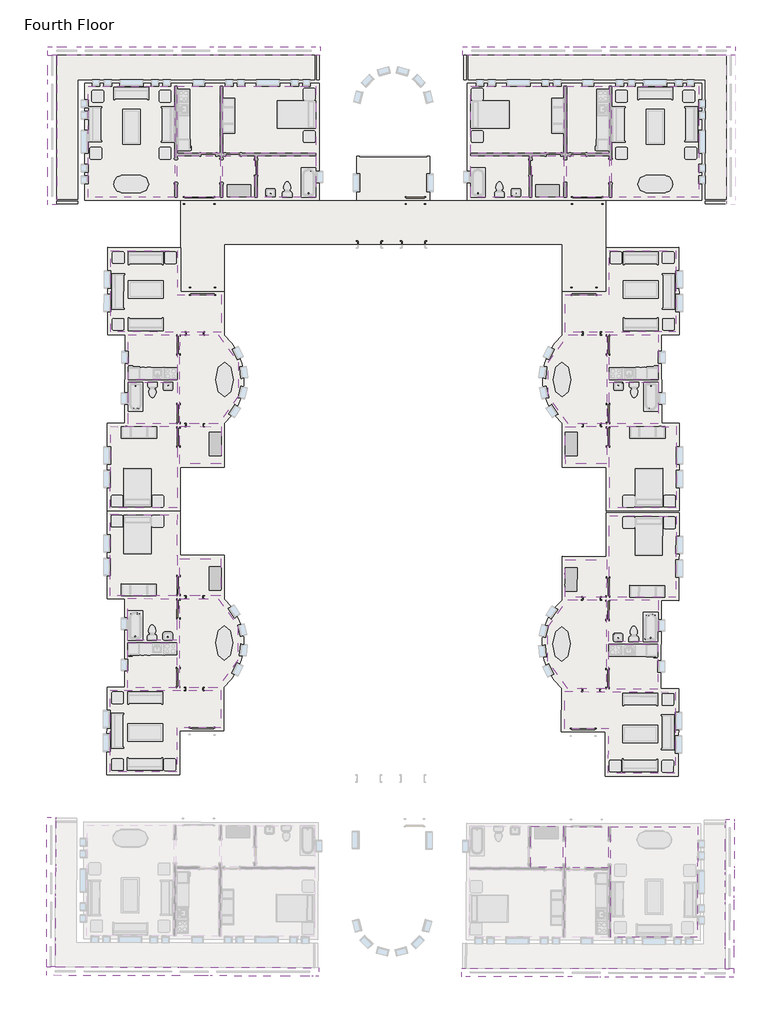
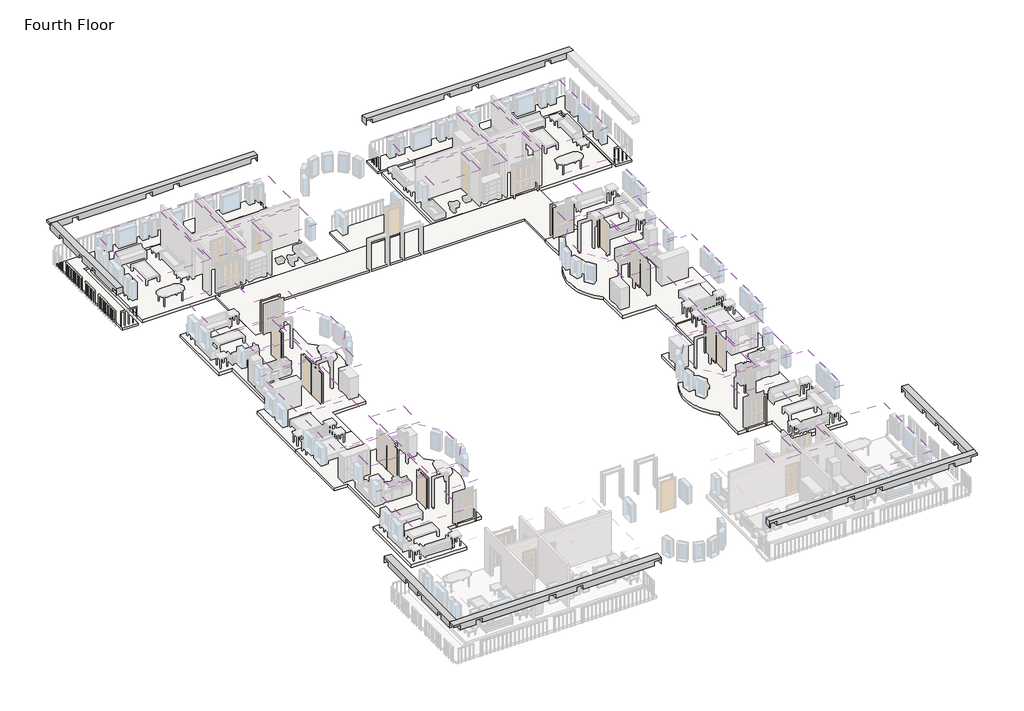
# One storey, part 3 of 8: 39 coverings, 10 slabs, 7 beams.
"""IFC4 building model written with IfcOpenShell, lengths in millimetres."""

from ifc_helpers import new_model, si_unit, point, frame, frame_2d, origin, place, context, project, spatial, polyline, circle_curve, trimmed, segment, composite_curve, outline, extrude, faceted_brep, element, save

model = new_model("IFC4")

# Units and contexts
model_context = context("Model", 3, world=origin())
ifc_project = project(units=[si_unit("LENGTHUNIT", "METRE", prefix="MILLI")], contexts=[model_context])

# Site, building, storey
site = spatial("IfcSite", under=ifc_project)
building = spatial("IfcBuilding", under=site)
storey = spatial("IfcBuildingStorey", under=building, Name="Fourth Floor", Elevation=9144.0)

# Beams
placement = place(None, origin())
element("IfcBeam", 1, ObjectType="M_Concrete-Rectangular Beam : 450 x 450", at=placement, inside=storey, context=model_context, shape_type="Brep", body=[
    faceted_brep([(-15338.3416203, 4481.1188386, 12192.0), (-15338.3416203, 4481.1188386, 11742.0), (-15338.3416203, 4031.1188386, 11742.0), (-15338.3416203, 4031.1188386, 12192.0), (-1643.3416203, 4031.1188386, 12192.0), (-1193.3416203, 4031.1188386, 12192.0), (-1193.3416203, 4481.1188386, 12192.0), (-15335.3416203, 4031.1188386, 11742.0), (-15335.3416203, 4031.1188386, 12042.0), (-14885.3416203, 4031.1188386, 12042.0), (-14885.3416203, 4031.1188386, 11742.0), (-10043.3416203, 4031.1188386, 11742.0), (-10043.3416203, 4031.1188386, 12042.0), (-9593.3416203, 4031.1188386, 12042.0), (-9593.3416203, 4031.1188386, 11742.0), (-8143.3416203, 4031.1188386, 11742.0), (-8143.3416203, 4031.1188386, 12042.0), (-7693.3416203, 4031.1188386, 12042.0), (-7693.3416203, 4031.1188386, 11742.0), (-3143.3416203, 4031.1188386, 11742.0), (-3143.3416203, 4031.1188386, 12042.0), (-2693.3416203, 4031.1188386, 12042.0), (-2693.3416203, 4031.1188386, 11742.0), (-1643.3416203, 4031.1188386, 11742.0), (-1643.3416203, 4031.1188386, 12042.0), (-1193.3416203, 4031.1188386, 12042.0), (-2693.3416203, 4481.1188386, 11742.0), (-1643.3416203, 4481.1188386, 11742.0), (-1193.3416203, 4481.1188386, 12042.0), (-1643.3416203, 4481.1188386, 12042.0), (-2693.3416203, 4481.1188386, 12042.0), (-3143.3416203, 4481.1188386, 12042.0), (-3143.3416203, 4481.1188386, 11742.0), (-7693.3416203, 4481.1188386, 11742.0), (-7693.3416203, 4481.1188386, 12042.0), (-8143.3416203, 4481.1188386, 12042.0), (-8143.3416203, 4481.1188386, 11742.0), (-9593.3416203, 4481.1188386, 11742.0), (-9593.3416203, 4481.1188386, 12042.0), (-10043.3416203, 4481.1188386, 12042.0), (-10043.3416203, 4481.1188386, 11742.0), (-14885.3416203, 4481.1188386, 11742.0), (-14885.3416203, 4481.1188386, 12042.0), (-15335.3416203, 4481.1188386, 12042.0), (-15335.3416203, 4481.1188386, 11742.0)], [[[0, 1, 2, 3]], [[0, 3, 4, 5, 6]], [[3, 2, 7, 8, 9, 10, 11, 12, 13, 14, 15, 16, 17, 18, 19, 20, 21, 22, 23, 24, 25, 5, 4]], [[22, 26, 27, 23]], [[1, 0, 6, 28, 29, 27, 26, 30, 31, 32, 33, 34, 35, 36, 37, 38, 39, 40, 41, 42, 43, 44]], [[6, 5, 25, 28]], [[21, 30, 26, 22]], [[31, 20, 19, 32]], [[30, 21, 20, 31]], [[32, 19, 18, 33]], [[17, 34, 33, 18]], [[35, 16, 15, 36]], [[34, 17, 16, 35]], [[36, 15, 14, 37]], [[13, 38, 37, 14]], [[39, 12, 11, 40]], [[38, 13, 12, 39]], [[40, 11, 10, 41]], [[9, 42, 41, 10]], [[42, 9, 8, 43]], [[29, 24, 23, 27]], [[24, 29, 28, 25]], [[43, 8, 7, 44]], [[2, 1, 44, 7]]]),
])
element("IfcBeam", 2, ObjectType="M_Concrete-Rectangular Beam : 450 x 450", at=placement, inside=storey, context=model_context, shape_type="Brep", body=[
    faceted_brep([(-22763.8416203, 4481.1188386, 11742.0), (-22763.8416203, 4481.1188386, 12192.0), (-22763.8416203, 4031.1188386, 12192.0), (-22763.8416203, 4031.1188386, 11742.0), (-36908.8416203, 4481.1188386, 12192.0), (-36908.8416203, 4031.1188386, 12192.0), (-36458.8416203, 4031.1188386, 12192.0), (-36908.8416203, 4031.1188386, 12042.0), (-36458.8416203, 4031.1188386, 12042.0), (-36458.8416203, 4031.1188386, 11742.0), (-35408.8416203, 4031.1188386, 11742.0), (-35408.8416203, 4031.1188386, 12042.0), (-34958.8416203, 4031.1188386, 12042.0), (-34958.8416203, 4031.1188386, 11742.0), (-30408.8416203, 4031.1188386, 11742.0), (-30408.8416203, 4031.1188386, 12042.0), (-29958.8416203, 4031.1188386, 12042.0), (-29958.8416203, 4031.1188386, 11742.0), (-28508.8416203, 4031.1188386, 11742.0), (-28508.8416203, 4031.1188386, 12042.0), (-28058.8416203, 4031.1188386, 12042.0), (-28058.8416203, 4031.1188386, 11742.0), (-23216.8416203, 4031.1188386, 11742.0), (-23216.8416203, 4031.1188386, 12042.0), (-22766.8416203, 4031.1188386, 12042.0), (-22766.8416203, 4031.1188386, 11742.0), (-35408.8416203, 4481.1188386, 11742.0), (-36458.8416203, 4481.1188386, 11742.0), (-22766.8416203, 4481.1188386, 11742.0), (-22766.8416203, 4481.1188386, 12042.0), (-23216.8416203, 4481.1188386, 12042.0), (-23216.8416203, 4481.1188386, 11742.0), (-28058.8416203, 4481.1188386, 11742.0), (-28058.8416203, 4481.1188386, 12042.0), (-28508.8416203, 4481.1188386, 12042.0), (-28508.8416203, 4481.1188386, 11742.0), (-29958.8416203, 4481.1188386, 11742.0), (-29958.8416203, 4481.1188386, 12042.0), (-30408.8416203, 4481.1188386, 12042.0), (-30408.8416203, 4481.1188386, 11742.0), (-34958.8416203, 4481.1188386, 11742.0), (-34958.8416203, 4481.1188386, 12042.0), (-35408.8416203, 4481.1188386, 12042.0), (-36458.8416203, 4481.1188386, 12042.0), (-36908.8416203, 4481.1188386, 12042.0)], [[[0, 1, 2, 3]], [[2, 1, 4, 5, 6]], [[3, 2, 6, 5, 7, 8, 9, 10, 11, 12, 13, 14, 15, 16, 17, 18, 19, 20, 21, 22, 23, 24, 25]], [[26, 10, 9, 27]], [[1, 0, 28, 29, 30, 31, 32, 33, 34, 35, 36, 37, 38, 39, 40, 41, 42, 26, 27, 43, 44, 4]], [[42, 11, 10, 26]], [[12, 41, 40, 13]], [[11, 42, 41, 12]], [[13, 40, 39, 14]], [[38, 15, 14, 39]], [[16, 37, 36, 17]], [[15, 38, 37, 16]], [[17, 36, 35, 18]], [[34, 19, 18, 35]], [[20, 33, 32, 21]], [[19, 34, 33, 20]], [[21, 32, 31, 22]], [[30, 23, 22, 31]], [[23, 30, 29, 24]], [[8, 43, 27, 9]], [[43, 8, 7, 44]], [[24, 29, 28, 25]], [[0, 3, 25, 28]], [[5, 4, 44, 7]]]),
])
element("IfcBeam", 3, ObjectType="M_Concrete-Rectangular Beam : 450 x 450", at=placement, inside=storey, context=model_context, shape_type="Brep", body=[
    faceted_brep([(-36458.8416203, -3743.8811614, 12192.0), (-36908.8416203, -3743.8811614, 12192.0), (-36908.8416203, -3743.8811614, 11742.0), (-36458.8416203, -3743.8811614, 11742.0), (-36458.8416203, 4031.1188386, 12192.0), (-36908.8416203, 4031.1188386, 12192.0), (-36458.8416203, -3739.8811614, 11742.0), (-36458.8416203, -3739.8811614, 12042.0), (-36458.8416203, -3289.8811614, 12042.0), (-36458.8416203, -3289.8811614, 11742.0), (-36458.8416203, -1295.3811614, 11742.0), (-36458.8416203, -1295.3811614, 12042.0), (-36458.8416203, -845.3811614, 12042.0), (-36458.8416203, -845.3811614, 11742.0), (-36458.8416203, 231.1188386, 11742.0), (-36458.8416203, 231.1188386, 12042.0), (-36458.8416203, 681.1188386, 12042.0), (-36458.8416203, 681.1188386, 11742.0), (-36458.8416203, 2531.1188386, 11742.0), (-36458.8416203, 2531.1188386, 12042.0), (-36458.8416203, 2981.1188386, 12042.0), (-36458.8416203, 2981.1188386, 11742.0), (-36458.8416203, 4031.1188386, 11742.0), (-36458.8416203, 4031.1188386, 12042.0), (-36908.8416203, -3739.8811614, 11742.0), (-36908.8416203, 4031.1188386, 12042.0), (-36908.8416203, 4031.1188386, 11742.0), (-36908.8416203, 2981.1188386, 11742.0), (-36908.8416203, 2981.1188386, 12042.0), (-36908.8416203, 2531.1188386, 12042.0), (-36908.8416203, 2531.1188386, 11742.0), (-36908.8416203, 681.1188386, 11742.0), (-36908.8416203, 681.1188386, 12042.0), (-36908.8416203, 231.1188386, 12042.0), (-36908.8416203, 231.1188386, 11742.0), (-36908.8416203, -845.3811614, 11742.0), (-36908.8416203, -845.3811614, 12042.0), (-36908.8416203, -1295.3811614, 12042.0), (-36908.8416203, -1295.3811614, 11742.0), (-36908.8416203, -3289.8811614, 11742.0), (-36908.8416203, -3289.8811614, 12042.0), (-36908.8416203, -3739.8811614, 12042.0)], [[[0, 1, 2, 3]], [[1, 0, 4, 5]], [[0, 3, 6, 7, 8, 9, 10, 11, 12, 13, 14, 15, 16, 17, 18, 19, 20, 21, 22, 23, 4]], [[3, 2, 24, 6]], [[2, 1, 5, 25, 26, 27, 28, 29, 30, 31, 32, 33, 34, 35, 36, 37, 38, 39, 40, 41, 24]], [[5, 4, 23, 22, 26, 25]], [[29, 19, 18, 30]], [[20, 28, 27, 21]], [[19, 29, 28, 20]], [[26, 22, 21, 27]], [[33, 15, 14, 34]], [[16, 32, 31, 17]], [[15, 33, 32, 16]], [[30, 18, 17, 31]], [[37, 11, 10, 38]], [[12, 36, 35, 13]], [[11, 37, 36, 12]], [[34, 14, 13, 35]], [[8, 40, 39, 9]], [[7, 41, 40, 8]], [[41, 7, 6, 24]], [[38, 10, 9, 39]]]),
])
element("IfcBeam", 4, ObjectType="M_Concrete-Rectangular Beam : 450 x 450", at=placement, inside=storey, context=model_context, shape_type="Brep", body=[
    faceted_brep([(-15408.3142615, -43861.5586759, 11742.0), (-15408.3142615, -43861.5586759, 12192.0), (-15407.0115773, -43411.5605615, 12192.0), (-15407.0115773, -43411.5605615, 11742.0), (-1263.3735305, -43902.5063845, 12192.0), (-1262.0708462, -43452.5082701, 12192.0), (-1712.0689607, -43451.2055858, 12192.0), (-1262.0708462, -43452.5082701, 12042.0), (-1712.0689607, -43451.2055858, 12042.0), (-1712.0689607, -43451.2055858, 11742.0), (-2762.0645611, -43448.1659892, 11742.0), (-2762.0645611, -43448.1659892, 12042.0), (-3212.0626755, -43446.863305, 12042.0), (-3212.0626755, -43446.863305, 11742.0), (-7762.0436106, -43433.6917196, 11742.0), (-7762.0436106, -43433.6917196, 12042.0), (-8212.041725, -43432.3890354, 12042.0), (-8212.041725, -43432.3890354, 11742.0), (-9662.0356494, -43428.1914972, 11742.0), (-9662.0356494, -43428.1914972, 12042.0), (-10112.0337638, -43426.888813, 12042.0), (-10112.0337638, -43426.888813, 11742.0), (-14954.0134754, -43412.8719303, 11742.0), (-14954.0134754, -43412.8719303, 12042.0), (-15404.0115898, -43411.569246, 12042.0), (-15404.0115898, -43411.569246, 11742.0), (-2763.3672453, -43898.1641037, 11742.0), (-1713.3716449, -43901.2037003, 11742.0), (-15405.3142741, -43861.5673605, 11742.0), (-15405.3142741, -43861.5673605, 12042.0), (-14955.3161596, -43862.8700448, 12042.0), (-14955.3161597, -43862.8700448, 11742.0), (-10113.3364481, -43876.8869274, 11742.0), (-10113.3364481, -43876.8869274, 12042.0), (-9663.3383336, -43878.1896117, 12042.0), (-9663.3383337, -43878.1896117, 11742.0), (-8213.3444093, -43882.3871498, 11742.0), (-8213.3444093, -43882.3871498, 12042.0), (-7763.3462948, -43883.6898341, 12042.0), (-7763.3462948, -43883.6898341, 11742.0), (-3213.3653598, -43896.8614194, 11742.0), (-3213.3653598, -43896.8614194, 12042.0), (-2763.3672453, -43898.1641037, 12042.0), (-1713.3716449, -43901.2037003, 12042.0), (-1263.3735305, -43902.5063845, 12042.0)], [[[0, 1, 2, 3]], [[2, 1, 4, 5, 6]], [[3, 2, 6, 5, 7, 8, 9, 10, 11, 12, 13, 14, 15, 16, 17, 18, 19, 20, 21, 22, 23, 24, 25]], [[26, 10, 9, 27]], [[1, 0, 28, 29, 30, 31, 32, 33, 34, 35, 36, 37, 38, 39, 40, 41, 42, 26, 27, 43, 44, 4]], [[42, 11, 10, 26]], [[12, 41, 40, 13]], [[11, 42, 41, 12]], [[13, 40, 39, 14]], [[38, 15, 14, 39]], [[16, 37, 36, 17]], [[15, 38, 37, 16]], [[17, 36, 35, 18]], [[34, 19, 18, 35]], [[20, 33, 32, 21]], [[19, 34, 33, 20]], [[21, 32, 31, 22]], [[30, 23, 22, 31]], [[23, 30, 29, 24]], [[8, 43, 27, 9]], [[43, 8, 7, 44]], [[24, 29, 28, 25]], [[0, 3, 25, 28]], [[5, 4, 44, 7]]]),
])
element("IfcBeam", 5, ObjectType="M_Concrete-Rectangular Beam : 450 x 450", at=placement, inside=storey, context=model_context, shape_type="Brep", body=[
    faceted_brep([(-1689.5614715, -35676.2381638, 12192.0), (-1239.563357, -35677.5408481, 12192.0), (-1239.563357, -35677.5408481, 11742.0), (-1689.5614715, -35676.2381638, 11742.0), (-1712.0689607, -43451.2055858, 12192.0), (-1262.0708462, -43452.5082701, 12192.0), (-1689.5730509, -35680.2381471, 11742.0), (-1689.5730509, -35680.2381471, 12042.0), (-1690.8757352, -36130.2362615, 12042.0), (-1690.8757352, -36130.2362615, 11742.0), (-1696.6495213, -38124.7279044, 11742.0), (-1696.6495213, -38124.7279044, 12042.0), (-1697.9522056, -38574.7260188, 12042.0), (-1697.9522056, -38574.7260188, 11742.0), (-1701.0685158, -39651.2215082, 11742.0), (-1701.0685158, -39651.2215082, 12042.0), (-1702.3712001, -40101.2196227, 12042.0), (-1702.3712001, -40101.2196227, 11742.0), (-1707.7266798, -41951.211871, 11742.0), (-1707.7266798, -41951.211871, 12042.0), (-1709.0293641, -42401.2099854, 12042.0), (-1709.0293641, -42401.2099854, 11742.0), (-1712.0689607, -43451.2055858, 11742.0), (-1712.0689607, -43451.2055858, 12042.0), (-1239.5749364, -35681.5408313, 11742.0), (-1262.0708462, -43452.5082701, 12042.0), (-1262.0708462, -43452.5082701, 11742.0), (-1259.0312496, -42402.5126697, 11742.0), (-1259.0312496, -42402.5126697, 12042.0), (-1257.7285653, -41952.5145552, 12042.0), (-1257.7285653, -41952.5145552, 11742.0), (-1252.3730856, -40102.5223069, 11742.0), (-1252.3730856, -40102.5223069, 12042.0), (-1251.0704013, -39652.5241925, 12042.0), (-1251.0704013, -39652.5241925, 11742.0), (-1247.9540911, -38576.0287031, 11742.0), (-1247.9540911, -38576.0287031, 12042.0), (-1246.6514068, -38126.0305886, 12042.0), (-1246.6514068, -38126.0305886, 11742.0), (-1240.8776207, -36131.5389458, 11742.0), (-1240.8776207, -36131.5389458, 12042.0), (-1239.5749364, -35681.5408313, 12042.0)], [[[0, 1, 2, 3]], [[1, 0, 4, 5]], [[0, 3, 6, 7, 8, 9, 10, 11, 12, 13, 14, 15, 16, 17, 18, 19, 20, 21, 22, 23, 4]], [[3, 2, 24, 6]], [[2, 1, 5, 25, 26, 27, 28, 29, 30, 31, 32, 33, 34, 35, 36, 37, 38, 39, 40, 41, 24]], [[5, 4, 23, 22, 26, 25]], [[29, 19, 18, 30]], [[20, 28, 27, 21]], [[19, 29, 28, 20]], [[26, 22, 21, 27]], [[33, 15, 14, 34]], [[16, 32, 31, 17]], [[15, 33, 32, 16]], [[30, 18, 17, 31]], [[37, 11, 10, 38]], [[12, 36, 35, 13]], [[11, 37, 36, 12]], [[34, 14, 13, 35]], [[8, 40, 39, 9]], [[7, 41, 40, 8]], [[41, 7, 6, 24]], [[38, 10, 9, 39]]]),
])
element("IfcBeam", 6, ObjectType="M_Concrete-Rectangular Beam : 450 x 450", at=placement, inside=storey, context=model_context, shape_type="Brep", body=[
    faceted_brep([(-22833.783148, -43840.0629382, 12192.0), (-22833.783148, -43840.0629382, 11742.0), (-22832.4804637, -43390.0648237, 11742.0), (-22832.4804637, -43390.0648237, 12192.0), (-36527.4230803, -43350.4197994, 12192.0), (-36977.4211948, -43349.1171151, 12192.0), (-36978.723879, -43799.1152296, 12192.0), (-22835.4804511, -43390.0561392, 11742.0), (-22835.4804511, -43390.0561392, 12042.0), (-23285.4785656, -43388.7534549, 12042.0), (-23285.4785656, -43388.7534549, 11742.0), (-28127.4582771, -43374.7365723, 11742.0), (-28127.4582771, -43374.7365723, 12042.0), (-28577.4563916, -43373.433888, 12042.0), (-28577.4563916, -43373.433888, 11742.0), (-30027.4503159, -43369.2363498, 11742.0), (-30027.4503159, -43369.2363498, 12042.0), (-30477.4484304, -43367.9336656, 12042.0), (-30477.4484304, -43367.9336656, 11742.0), (-35027.4293654, -43354.7620803, 11742.0), (-35027.4293655, -43354.7620803, 12042.0), (-35477.4274799, -43353.459396, 12042.0), (-35477.4274799, -43353.459396, 11742.0), (-36527.4230803, -43350.4197994, 11742.0), (-36527.4230803, -43350.4197994, 12042.0), (-36977.4211948, -43349.1171151, 12042.0), (-35478.7301642, -43803.4575104, 11742.0), (-36528.7257646, -43800.4179138, 11742.0), (-36978.723879, -43799.1152296, 12042.0), (-36528.7257646, -43800.4179138, 12042.0), (-35478.7301642, -43803.4575104, 12042.0), (-35028.7320497, -43804.7601947, 12042.0), (-35028.7320497, -43804.7601947, 11742.0), (-30478.7511147, -43817.93178, 11742.0), (-30478.7511147, -43817.93178, 12042.0), (-30028.7530002, -43819.2344643, 12042.0), (-30028.7530002, -43819.2344643, 11742.0), (-28578.7590758, -43823.4320025, 11742.0), (-28578.7590758, -43823.4320025, 12042.0), (-28128.7609614, -43824.7346867, 12042.0), (-28128.7609614, -43824.7346867, 11742.0), (-23286.7812498, -43838.7515694, 11742.0), (-23286.7812498, -43838.7515694, 12042.0), (-22836.7831354, -43840.0542536, 12042.0), (-22836.7831354, -43840.0542536, 11742.0)], [[[0, 1, 2, 3]], [[0, 3, 4, 5, 6]], [[3, 2, 7, 8, 9, 10, 11, 12, 13, 14, 15, 16, 17, 18, 19, 20, 21, 22, 23, 24, 25, 5, 4]], [[22, 26, 27, 23]], [[1, 0, 6, 28, 29, 27, 26, 30, 31, 32, 33, 34, 35, 36, 37, 38, 39, 40, 41, 42, 43, 44]], [[21, 30, 26, 22]], [[31, 20, 19, 32]], [[30, 21, 20, 31]], [[32, 19, 18, 33]], [[17, 34, 33, 18]], [[35, 16, 15, 36]], [[34, 17, 16, 35]], [[36, 15, 14, 37]], [[13, 38, 37, 14]], [[39, 12, 11, 40]], [[38, 13, 12, 39]], [[40, 11, 10, 41]], [[9, 42, 41, 10]], [[42, 9, 8, 43]], [[29, 24, 23, 27]], [[24, 29, 28, 25]], [[43, 8, 7, 44]], [[2, 1, 44, 7]], [[6, 5, 25, 28]]]),
])
element("IfcBeam", 7, ObjectType="M_Concrete-Rectangular Beam : 450 x 450", at=placement, inside=storey, context=model_context, shape_type="Brep", body=[
    faceted_brep([(-36954.9137056, -35574.1496931, 12192.0), (-36504.9155911, -35575.4523774, 12192.0), (-36504.9155911, -35575.4523774, 11742.0), (-36954.9137056, -35574.1496931, 11742.0), (-36977.4211948, -43349.1171151, 12192.0), (-36527.4230803, -43350.4197994, 12192.0), (-36527.4230803, -43350.4197994, 12042.0), (-36527.4230803, -43350.4197994, 11742.0), (-36524.3834837, -42300.424199, 11742.0), (-36524.3834837, -42300.424199, 12042.0), (-36523.0807994, -41850.4260845, 12042.0), (-36523.0807994, -41850.4260845, 11742.0), (-36517.7253197, -40000.4338362, 11742.0), (-36517.7253197, -40000.4338362, 12042.0), (-36516.4226354, -39550.4357218, 12042.0), (-36516.4226354, -39550.4357218, 11742.0), (-36513.3063252, -38473.9402324, 11742.0), (-36513.3063252, -38473.9402324, 12042.0), (-36512.0036409, -38023.9421179, 12042.0), (-36512.0036409, -38023.9421179, 11742.0), (-36506.2298548, -36029.4504751, 11742.0), (-36506.2298548, -36029.4504751, 12042.0), (-36504.9271705, -35579.4523606, 12042.0), (-36504.9271705, -35579.4523606, 11742.0), (-36954.925285, -35578.1496764, 11742.0), (-36954.925285, -35578.1496764, 12042.0), (-36956.2279692, -36028.1477908, 12042.0), (-36956.2279692, -36028.1477908, 11742.0), (-36962.0017554, -38022.6394337, 11742.0), (-36962.0017554, -38022.6394337, 12042.0), (-36963.3044396, -38472.6375481, 12042.0), (-36963.3044396, -38472.6375481, 11742.0), (-36966.4207499, -39549.1330375, 11742.0), (-36966.4207499, -39549.1330375, 12042.0), (-36967.7234341, -39999.1311519, 12042.0), (-36967.7234341, -39999.1311519, 11742.0), (-36973.0789139, -41849.1234003, 11742.0), (-36973.0789139, -41849.1234003, 12042.0), (-36974.3815981, -42299.1215147, 12042.0), (-36974.3815981, -42299.1215147, 11742.0), (-36977.4211948, -43349.1171151, 11742.0), (-36977.4211948, -43349.1171151, 12042.0)], [[[0, 1, 2, 3]], [[1, 0, 4, 5]], [[2, 1, 5, 6, 7, 8, 9, 10, 11, 12, 13, 14, 15, 16, 17, 18, 19, 20, 21, 22, 23]], [[3, 2, 23, 24]], [[0, 3, 24, 25, 26, 27, 28, 29, 30, 31, 32, 33, 34, 35, 36, 37, 38, 39, 40, 41, 4]], [[5, 4, 41, 40, 7, 6]], [[10, 37, 36, 11]], [[38, 9, 8, 39]], [[37, 10, 9, 38]], [[7, 40, 39, 8]], [[14, 33, 32, 15]], [[34, 13, 12, 35]], [[33, 14, 13, 34]], [[11, 36, 35, 12]], [[18, 29, 28, 19]], [[30, 17, 16, 31]], [[29, 18, 17, 30]], [[15, 32, 31, 16]], [[26, 21, 20, 27]], [[25, 22, 21, 26]], [[22, 25, 24, 23]], [[19, 28, 27, 20]]]),
])

# Coverings
element("IfcCovering", 8, ObjectType="Plain", at=placement, inside=storey, context=model_context, shape_type="SweptSolid", body=[
    extrude(outline(polyline([(-14935.3416203, 2406.1188386), (-10086.8416203, 2406.1188386), (-10086.8416203, -1070.3811614), (-14935.3416203, -1070.3811614), (-14935.3416203, 2406.1188386)])), frame((0.0, 0.0, 11734.0), z_axis=(0.0, 0.0, 1.0), x_axis=(1.0, 0.0, 0.0)), (0.0, 0.0, 1.0), 57.0),
])
element("IfcCovering", 9, ObjectType="Plain", at=placement, inside=storey, context=model_context, shape_type="SweptSolid", body=[
    extrude(outline(polyline([(-9951.3416203, -1070.3811614), (-9951.3416203, 2406.1188386), (-7733.0916203, 2406.1188386), (-7733.0916203, -1070.3811614), (-9951.3416203, -1070.3811614)])), frame((0.0, 0.0, 11734.0), z_axis=(0.0, 0.0, 1.0), x_axis=(1.0, 0.0, 0.0)), (0.0, 0.0, 1.0), 57.0),
])
element("IfcCovering", 10, ObjectType="Plain", at=placement, inside=storey, context=model_context, shape_type="SweptSolid", body=[
    extrude(outline(polyline([(-7597.5916203, -3339.8811614), (-7597.5916203, 2406.1188386), (-3093.3416203, 2406.1188386), (-3093.3416203, -3339.8811614), (-7597.5916203, -3339.8811614)])), frame((0.0, 0.0, 11734.0), z_axis=(0.0, 0.0, 1.0), x_axis=(1.0, 0.0, 0.0)), (0.0, 0.0, 1.0), 57.0),
])
element("IfcCovering", 11, ObjectType="Plain", at=placement, inside=storey, context=model_context, shape_type="SweptSolid", body=[
    extrude(outline(polyline([(-7733.0916203, -3339.8811614), (-9951.3416203, -3339.8811614), (-9951.3416203, -1205.8811614), (-7733.0916203, -1205.8811614), (-7733.0916203, -3339.8811614)])), frame((0.0, 0.0, 11734.0), z_axis=(0.0, 0.0, 1.0), x_axis=(1.0, 0.0, 0.0)), (0.0, 0.0, 1.0), 57.0),
])
element("IfcCovering", 12, ObjectType="Plain", at=placement, inside=storey, context=model_context, shape_type="SweptSolid", body=[
    extrude(outline(polyline([(-11887.3416203, -1205.8811614), (-11887.3416203, -3339.8811614), (-14935.3416203, -3339.8811614), (-14935.3416203, -1205.8811614), (-11887.3416203, -1205.8811614)])), frame((0.0, 0.0, 11734.0), z_axis=(0.0, 0.0, 1.0), x_axis=(1.0, 0.0, 0.0)), (0.0, 0.0, 1.0), 57.0),
])
element("IfcCovering", 13, ObjectType="Plain", at=placement, inside=storey, context=model_context, shape_type="SweptSolid", body=[
    extrude(outline(polyline([(-10086.8416203, -3339.8811614), (-11751.8416203, -3339.8811614), (-11751.8416203, -1205.8811614), (-10086.8416203, -1205.8811614), (-10086.8416203, -3339.8811614)])), frame((0.0, 0.0, 11734.0), z_axis=(0.0, 0.0, 1.0), x_axis=(1.0, 0.0, 0.0)), (0.0, 0.0, 1.0), 57.0),
])
element("IfcCovering", 14, ObjectType="Plain", at=placement, inside=storey, context=model_context, shape_type="SweptSolid", body=[
    extrude(outline(polyline([(-7719.603401, -17382.7647995), (-7726.8533934, -17382.7752934), (-7729.9194088, -15264.5275123), (-5002.0722663, -15260.5791445), (-5002.0617724, -15267.829137), (-4262.662547, -15266.7589083), (-4256.5515039, -19488.7544857), (-7716.5478795, -19493.7625882), (-7719.603401, -17382.7647995)])), frame((0.0, 0.0, 11735.0), z_axis=(0.0, 0.0, 1.0), x_axis=(1.0, 0.0, 0.0)), (0.0, 0.0, 1.0), 57.0),
])
element("IfcCovering", 15, ObjectType="Plain", at=placement, inside=storey, context=model_context, shape_type="SweptSolid", body=[
    extrude(outline(polyline([(-7730.1155353, -15129.0276542), (-7733.2504483, -12963.179923), (-5180.4031225, -12959.4848553), (-5177.2682095, -15125.3325865), (-7730.1155353, -15129.0276542)])), frame((0.0, 0.0, 11735.0), z_axis=(0.0, 0.0, 1.0), x_axis=(1.0, 0.0, 0.0)), (0.0, 0.0, 1.0), 57.0),
])
element("IfcCovering", 16, ObjectType="Plain", at=placement, inside=storey, context=model_context, shape_type="SweptSolid", body=[
    extrude(outline(polyline([(-7733.4465749, -12827.680065), (-7736.8265375, -10492.5325111), (-5183.9792116, -10488.8374433), (-5180.599249, -12823.9849972), (-7733.4465749, -12827.680065)])), frame((0.0, 0.0, 11735.0), z_axis=(0.0, 0.0, 1.0), x_axis=(1.0, 0.0, 0.0)), (0.0, 0.0, 1.0), 57.0),
])
element("IfcCovering", 17, ObjectType="Plain", at=placement, inside=storey, context=model_context, shape_type="SweptSolid", body=[
    extrude(outline(polyline([(-10015.770277, -10360.3309807), (-10018.5829924, -8417.0830163), (-7732.585387, -8413.7741948), (-7735.8942085, -6127.7765894), (-4275.8978329, -6122.7684869), (-4269.7867899, -10344.7640643), (-5009.1860154, -10345.8342929), (-5009.1755215, -10353.0842853), (-10015.770277, -10360.3309807)])), frame((0.0, 0.0, 11735.0), z_axis=(0.0, 0.0, 1.0), x_axis=(1.0, 0.0, 0.0)), (0.0, 0.0, 1.0), 57.0),
])
element("IfcCovering", 18, ObjectType="Plain", at=placement, inside=storey, context=model_context, shape_type="SweptSolid", body=[
    extrude(outline(composite_curve([segment(polyline([(-9871.5226854, -10495.6223343), (-7872.3263955, -10492.7286377), (-7865.6153934, -15129.2237808), (-9864.8116833, -15132.1174775)]), True, "CONTINUOUS"), segment(trimmed(circle_curve(frame_2d((-8171.1580789, -12811.413604)), 2873.0), [point((-9864.8116833, -15132.1174775))], [point((-9871.5226854, -10495.6223343))], False, "CARTESIAN"), True, "CONTINUOUS")], self_intersect=False)), frame((0.0, 0.0, 11735.0), z_axis=(0.0, 0.0, 1.0), x_axis=(1.0, 0.0, 0.0)), (0.0, 0.0, 1.0), 57.0),
])
element("IfcCovering", 19, ObjectType="Plain", at=placement, inside=storey, context=model_context, shape_type="SweptSolid", body=[
    extrude(outline(polyline([(-10008.6670217, -15267.8258399), (-7865.4192668, -15264.7236389), (-7862.6065515, -17207.9716033), (-10005.8543064, -17211.0738043), (-10008.6670217, -15267.8258399)])), frame((0.0, 0.0, 11735.0), z_axis=(0.0, 0.0, 1.0), x_axis=(1.0, 0.0, 0.0)), (0.0, 0.0, 1.0), 57.0),
])
element("IfcCovering", 20, ObjectType="Plain", at=placement, inside=storey, context=model_context, shape_type="SweptSolid", body=[
    extrude(outline(polyline([(-22978.8416203, 2406.1188386), (-22978.8416203, -1070.3811614), (-27827.3416203, -1070.3811614), (-27827.3416203, 2406.1188386), (-22978.8416203, 2406.1188386)])), frame((0.0, 0.0, 11734.0), z_axis=(0.0, 0.0, 1.0), x_axis=(1.0, 0.0, 0.0)), (0.0, 0.0, 1.0), 57.0),
])
element("IfcCovering", 21, ObjectType="Plain", at=placement, inside=storey, context=model_context, shape_type="SweptSolid", body=[
    extrude(outline(polyline([(-27962.8416203, -1070.3811614), (-30181.0916203, -1070.3811614), (-30181.0916203, 2406.1188386), (-27962.8416203, 2406.1188386), (-27962.8416203, -1070.3811614)])), frame((0.0, 0.0, 11734.0), z_axis=(0.0, 0.0, 1.0), x_axis=(1.0, 0.0, 0.0)), (0.0, 0.0, 1.0), 57.0),
])
element("IfcCovering", 22, ObjectType="Plain", at=placement, inside=storey, context=model_context, shape_type="SweptSolid", body=[
    extrude(outline(polyline([(-30316.5916203, -3339.8811614), (-34820.8416203, -3339.8811614), (-34820.8416203, 2406.1188386), (-30316.5916203, 2406.1188386), (-30316.5916203, -3339.8811614)])), frame((0.0, 0.0, 11734.0), z_axis=(0.0, 0.0, 1.0), x_axis=(1.0, 0.0, 0.0)), (0.0, 0.0, 1.0), 57.0),
])
element("IfcCovering", 23, ObjectType="Plain", at=placement, inside=storey, context=model_context, shape_type="SweptSolid", body=[
    extrude(outline(polyline([(-30181.0916203, -3339.8811614), (-30181.0916203, -1205.8811614), (-27962.8416203, -1205.8811614), (-27962.8416203, -3339.8811614), (-30181.0916203, -3339.8811614)])), frame((0.0, 0.0, 11734.0), z_axis=(0.0, 0.0, 1.0), x_axis=(1.0, 0.0, 0.0)), (0.0, 0.0, 1.0), 57.0),
])
element("IfcCovering", 24, ObjectType="Plain", at=placement, inside=storey, context=model_context, shape_type="SweptSolid", body=[
    extrude(outline(polyline([(-26026.8416203, -1205.8811614), (-22978.8416203, -1205.8811614), (-22978.8416203, -3339.8811614), (-26026.8416203, -3339.8811614), (-26026.8416203, -1205.8811614)])), frame((0.0, 0.0, 11734.0), z_axis=(0.0, 0.0, 1.0), x_axis=(1.0, 0.0, 0.0)), (0.0, 0.0, 1.0), 57.0),
])
element("IfcCovering", 25, ObjectType="Plain", at=placement, inside=storey, context=model_context, shape_type="SweptSolid", body=[
    extrude(outline(polyline([(-27827.3416203, -3339.8811614), (-27827.3416203, -1205.8811614), (-26162.3416203, -1205.8811614), (-26162.3416203, -3339.8811614), (-27827.3416203, -3339.8811614)])), frame((0.0, 0.0, 11734.0), z_axis=(0.0, 0.0, 1.0), x_axis=(1.0, 0.0, 0.0)), (0.0, 0.0, 1.0), 57.0),
])
element("IfcCovering", 26, ObjectType="Plain", at=placement, inside=storey, context=model_context, shape_type="SweptSolid", body=[
    extrude(outline(polyline([(-30194.5798396, -17382.7647995), (-30197.6353611, -19493.7625882), (-33657.6317367, -19488.7544857), (-33651.5206937, -15266.7589083), (-32912.1214682, -15267.829137), (-32912.1109744, -15260.5791445), (-30184.2638319, -15264.5275123), (-30187.3298472, -17382.7752934), (-30194.5798396, -17382.7647995)])), frame((0.0, 0.0, 11735.0), z_axis=(0.0, 0.0, 1.0), x_axis=(1.0, 0.0, 0.0)), (0.0, 0.0, 1.0), 57.0),
])
element("IfcCovering", 27, ObjectType="Plain", at=placement, inside=storey, context=model_context, shape_type="SweptSolid", body=[
    extrude(outline(polyline([(-30184.0677053, -15129.0276542), (-32736.9150311, -15125.3325865), (-32733.7801182, -12959.4848553), (-30180.9327923, -12963.179923), (-30184.0677053, -15129.0276542)])), frame((0.0, 0.0, 11735.0), z_axis=(0.0, 0.0, 1.0), x_axis=(1.0, 0.0, 0.0)), (0.0, 0.0, 1.0), 57.0),
])
element("IfcCovering", 28, ObjectType="Plain", at=placement, inside=storey, context=model_context, shape_type="SweptSolid", body=[
    extrude(outline(polyline([(-30180.7366658, -12827.680065), (-32733.5839916, -12823.9849972), (-32730.204029, -10488.8374433), (-30177.3567032, -10492.5325111), (-30180.7366658, -12827.680065)])), frame((0.0, 0.0, 11735.0), z_axis=(0.0, 0.0, 1.0), x_axis=(1.0, 0.0, 0.0)), (0.0, 0.0, 1.0), 57.0),
])
element("IfcCovering", 29, ObjectType="Plain", at=placement, inside=storey, context=model_context, shape_type="SweptSolid", body=[
    extrude(outline(polyline([(-27898.4129637, -10360.3309807), (-32905.0077191, -10353.0842853), (-32904.9972253, -10345.8342929), (-33644.3964507, -10344.7640643), (-33638.2854077, -6122.7684869), (-30178.2890322, -6127.7765894), (-30181.5978537, -8413.7741948), (-27895.6002483, -8417.0830163), (-27898.4129637, -10360.3309807)])), frame((0.0, 0.0, 11735.0), z_axis=(0.0, 0.0, 1.0), x_axis=(1.0, 0.0, 0.0)), (0.0, 0.0, 1.0), 57.0),
])
element("IfcCovering", 30, ObjectType="Plain", at=placement, inside=storey, context=model_context, shape_type="SweptSolid", body=[
    extrude(outline(composite_curve([segment(trimmed(circle_curve(frame_2d((-29743.0251618, -12811.413604)), 2873.0), [point((-28042.6605552, -10495.6223343))], [point((-28049.3715573, -15132.1174775))], False, "CARTESIAN"), True, "CONTINUOUS"), segment(polyline([(-28049.3715573, -15132.1174775), (-30048.5678472, -15129.2237808), (-30041.8568451, -10492.7286377), (-28042.6605552, -10495.6223343)]), True, "CONTINUOUS")], self_intersect=False)), frame((0.0, 0.0, 11735.0), z_axis=(0.0, 0.0, 1.0), x_axis=(1.0, 0.0, 0.0)), (0.0, 0.0, 1.0), 57.0),
])
element("IfcCovering", 31, ObjectType="Plain", at=placement, inside=storey, context=model_context, shape_type="SweptSolid", body=[
    extrude(outline(polyline([(-27905.5162189, -15267.8258399), (-27908.3289343, -17211.0738043), (-30051.5766892, -17207.9716033), (-30048.7639738, -15264.7236389), (-27905.5162189, -15267.8258399)])), frame((0.0, 0.0, 11735.0), z_axis=(0.0, 0.0, 1.0), x_axis=(1.0, 0.0, 0.0)), (0.0, 0.0, 1.0), 57.0),
])
element("IfcCovering", 32, ObjectType="Plain", at=placement, inside=storey, context=model_context, shape_type="SweptSolid", body=[
    extrude(outline(polyline([(-7644.9560436, -36062.9997871), (-3140.7249168, -36076.0389329), (-3157.3587474, -41822.0148566), (-7661.5898742, -41808.9757108), (-7644.9560436, -36062.9997871)])), frame((0.0, 0.0, 11734.0), z_axis=(0.0, 0.0, 1.0), x_axis=(1.0, 0.0, 0.0)), (0.0, 0.0, 1.0), 57.0),
])
element("IfcCovering", 33, ObjectType="Plain", at=placement, inside=storey, context=model_context, shape_type="SweptSolid", body=[
    extrude(outline(polyline([(-7780.4554758, -36062.6075344), (-7786.6330941, -38196.5985928), (-10004.8737994, -38190.1770831), (-9998.6961811, -36056.1860247), (-7780.4554758, -36062.6075344)])), frame((0.0, 0.0, 11734.0), z_axis=(0.0, 0.0, 1.0), x_axis=(1.0, 0.0, 0.0)), (0.0, 0.0, 1.0), 57.0),
])
element("IfcCovering", 34, ObjectType="Plain", at=placement, inside=storey, context=model_context, shape_type="SweptSolid", body=[
    extrude(outline(polyline([(-10134.1956134, -36055.793772), (-10140.3732316, -38189.7848304), (-11805.3662551, -38184.9648986), (-11799.1886369, -36050.9738403), (-10134.1956134, -36055.793772)])), frame((0.0, 0.0, 11734.0), z_axis=(0.0, 0.0, 1.0), x_axis=(1.0, 0.0, 0.0)), (0.0, 0.0, 1.0), 57.0),
])
element("IfcCovering", 35, ObjectType="Plain", at=placement, inside=storey, context=model_context, shape_type="SweptSolid", body=[
    extrude(outline(polyline([(-7726.3152164, -22019.8217838), (-7717.1486774, -19908.8416857), (-4257.1812973, -19923.8659512), (-4275.5143752, -24145.8261474), (-5014.9074043, -24142.6154706), (-5014.9388858, -24149.8654022), (-7742.7631684, -24138.020332), (-7733.565148, -22019.7903023), (-7726.3152164, -22019.8217838)])), frame((0.0, 0.0, 11735.0), z_axis=(0.0, 0.0, 1.0), x_axis=(1.0, 0.0, 0.0)), (0.0, 0.0, 1.0), 57.0),
])
element("IfcCovering", 36, ObjectType="Plain", at=placement, inside=storey, context=model_context, shape_type="SweptSolid", body=[
    extrude(outline(polyline([(-7743.3515464, -24273.5190546), (-5190.525614, -24284.6042269), (-5199.9303266, -26450.4338079), (-7752.756259, -26439.3486356), (-7743.3515464, -24273.5190546)])), frame((0.0, 0.0, 11735.0), z_axis=(0.0, 0.0, 1.0), x_axis=(1.0, 0.0, 0.0)), (0.0, 0.0, 1.0), 57.0),
])
element("IfcCovering", 37, ObjectType="Plain", at=placement, inside=storey, context=model_context, shape_type="SweptSolid", body=[
    extrude(outline(polyline([(-7753.3446371, -26574.8473581), (-5200.5187046, -26585.9325305), (-5210.6585641, -28921.0605153), (-7763.4844965, -28909.975343), (-7753.3446371, -26574.8473581)])), frame((0.0, 0.0, 11735.0), z_axis=(0.0, 0.0, 1.0), x_axis=(1.0, 0.0, 0.0)), (0.0, 0.0, 1.0), 57.0),
])
element("IfcCovering", 38, ObjectType="Plain", at=placement, inside=storey, context=model_context, shape_type="SweptSolid", body=[
    extrude(outline(polyline([(-10042.8013912, -29035.5791103), (-5036.248592, -29057.3191357), (-5036.2800734, -29064.5690674), (-4296.8870443, -29067.7797442), (-4315.2201221, -33289.7399404), (-7775.1875022, -33274.7156749), (-7765.2610655, -30988.7372266), (-10051.2395137, -30978.8107899), (-10042.8013912, -29035.5791103)])), frame((0.0, 0.0, 11735.0), z_axis=(0.0, 0.0, 1.0), x_axis=(1.0, 0.0, 0.0)), (0.0, 0.0, 1.0), 57.0),
])
element("IfcCovering", 39, ObjectType="Plain", at=placement, inside=storey, context=model_context, shape_type="SweptSolid", body=[
    extrude(outline(composite_curve([segment(trimmed(circle_curve(frame_2d((-8191.1013961, -26589.84664)), 2873.0), [point((-9898.1627553, -28900.7058992))], [point((-9878.0298052, -24264.2496108))], False, "CARTESIAN"), True, "CONTINUOUS"), segment(polyline([(-9878.0298052, -24264.2496108), (-7878.850269, -24272.9306765), (-7898.9832191, -28909.3869649), (-9898.1627553, -28900.7058992)]), True, "CONTINUOUS")], self_intersect=False)), frame((0.0, 0.0, 11735.0), z_axis=(0.0, 0.0, 1.0), x_axis=(1.0, 0.0, 0.0)), (0.0, 0.0, 1.0), 57.0),
])
element("IfcCovering", 40, ObjectType="Plain", at=placement, inside=storey, context=model_context, shape_type="SweptSolid", body=[
    extrude(outline(polyline([(-10021.491685, -24128.1253768), (-10013.0535624, -22184.8936972), (-7869.8237684, -22194.2002744), (-7878.2618909, -24137.431954), (-10021.491685, -24128.1253768)])), frame((0.0, 0.0, 11735.0), z_axis=(0.0, 0.0, 1.0), x_axis=(1.0, 0.0, 0.0)), (0.0, 0.0, 1.0), 57.0),
])
element("IfcCovering", 41, ObjectType="Plain", at=placement, inside=storey, context=model_context, shape_type="SweptSolid", body=[
    extrude(outline(polyline([(-30201.1974826, -21954.7600102), (-30193.9474902, -21954.7705041), (-30197.0135056, -24073.0182852), (-32924.8606481, -24069.0699174), (-32924.8501542, -24061.819925), (-33664.2493797, -24060.7496964), (-33658.1383367, -19838.7541191), (-30198.1419611, -19843.7622216), (-30201.1974826, -21954.7600102)])), frame((0.0, 0.0, 11735.0), z_axis=(0.0, 0.0, 1.0), x_axis=(1.0, 0.0, 0.0)), (0.0, 0.0, 1.0), 57.0),
])
element("IfcCovering", 42, ObjectType="Plain", at=placement, inside=storey, context=model_context, shape_type="SweptSolid", body=[
    extrude(outline(polyline([(-30197.2096321, -24208.5181432), (-30200.3445451, -26374.3658745), (-32753.1918709, -26370.6708067), (-32750.056958, -24204.8230755), (-30197.2096321, -24208.5181432)])), frame((0.0, 0.0, 11735.0), z_axis=(0.0, 0.0, 1.0), x_axis=(1.0, 0.0, 0.0)), (0.0, 0.0, 1.0), 57.0),
])
element("IfcCovering", 43, ObjectType="Plain", at=placement, inside=storey, context=model_context, shape_type="SweptSolid", body=[
    extrude(outline(polyline([(-30200.5406716, -26509.8657325), (-30203.9206342, -28845.0132864), (-32756.7679601, -28841.3182186), (-32753.3879975, -26506.1706647), (-30200.5406716, -26509.8657325)])), frame((0.0, 0.0, 11735.0), z_axis=(0.0, 0.0, 1.0), x_axis=(1.0, 0.0, 0.0)), (0.0, 0.0, 1.0), 57.0),
])
element("IfcCovering", 44, ObjectType="Plain", at=placement, inside=storey, context=model_context, shape_type="SweptSolid", body=[
    extrude(outline(polyline([(-27925.3691479, -28983.8114721), (-27928.1818632, -30927.0594365), (-30214.1794686, -30923.750615), (-30217.4882901, -33209.7482204), (-33677.4846656, -33204.7401178), (-33671.3736226, -28982.7445405), (-32931.9743972, -28983.8147691), (-32931.9639033, -28976.5647767), (-27925.3691479, -28983.8114721)])), frame((0.0, 0.0, 11735.0), z_axis=(0.0, 0.0, 1.0), x_axis=(1.0, 0.0, 0.0)), (0.0, 0.0, 1.0), 57.0),
])
element("IfcCovering", 45, ObjectType="Plain", at=placement, inside=storey, context=model_context, shape_type="SweptSolid", body=[
    extrude(outline(composite_curve([segment(polyline([(-28069.2244863, -28848.1031096), (-30068.4207762, -28845.209413), (-30061.7097741, -24208.7142698), (-28062.5134842, -24211.6079665)]), True, "CONTINUOUS"), segment(trimmed(circle_curve(frame_2d((-29762.8780907, -26527.3992362)), 2873.0), [point((-28062.5134842, -24211.6079665))], [point((-28069.2244863, -28848.1031096))], False, "CARTESIAN"), True, "CONTINUOUS")], self_intersect=False)), frame((0.0, 0.0, 11735.0), z_axis=(0.0, 0.0, 1.0), x_axis=(1.0, 0.0, 0.0)), (0.0, 0.0, 1.0), 57.0),
])
element("IfcCovering", 46, ObjectType="Plain", at=placement, inside=storey, context=model_context, shape_type="SweptSolid", body=[
    extrude(outline(polyline([(-27918.2658926, -24076.3166128), (-30061.5136475, -24073.2144117), (-30058.7009321, -22129.9664473), (-27915.4531772, -22133.0686484), (-27918.2658926, -24076.3166128)])), frame((0.0, 0.0, 11735.0), z_axis=(0.0, 0.0, 1.0), x_axis=(1.0, 0.0, 0.0)), (0.0, 0.0, 1.0), 57.0),
])

# Slabs
element("IfcSlab", 47, ObjectType="160mm Concrete With 50mm Metal Deck", at=placement, inside=storey, context=model_context, shape_type="SweptSolid", body=[
    extrude(outline(polyline([(-2928.3416203, 2571.1188386), (-2928.3416203, -3504.8811614), (-15100.3416203, -3504.8811614), (-15100.3416203, 2571.1188386), (-2928.3416203, 2571.1188386)])), frame((0.0, 0.0, 8934.0), z_axis=(0.0, 0.0, 1.0), x_axis=(1.0, 0.0, 0.0)), (0.0, 0.0, 1.0), 210.0),
])
element("IfcSlab", 48, ObjectType="160mm Concrete With 50mm Metal Deck", at=placement, inside=storey, context=model_context, shape_type="SweptSolid", body=[
    extrude(outline(composite_curve([segment(polyline([(-4091.3128511, -19653.5154871), (-7881.308881, -19659.0012411), (-7884.6177025, -17373.0036357), (-10170.6153078, -17376.3124572), (-10173.9161954, -15095.7962179)]), True, "CONTINUOUS"), segment(trimmed(circle_curve(frame_2d((-8171.1580789, -12811.413604)), 3038.0), [point((-10173.9161954, -15095.7962179))], [point((-10180.5207576, -10532.8382541))], False, "CARTESIAN"), True, "CONTINUOUS"), segment(polyline([(-10180.5207576, -10532.8382541), (-10183.8216452, -8252.3220148), (-7897.8240398, -8249.0131933), (-7901.1328613, -5963.015588), (-4111.1368315, -5957.5298341), (-4104.548137, -10509.5250657), (-5018.9471792, -10510.8485943), (-5012.3005876, -15102.8437841), (-4097.9015455, -15101.5202555), (-4091.3128511, -19653.5154871)]), True, "CONTINUOUS")], self_intersect=False)), frame((0.0, 0.0, 8934.0), z_axis=(0.0, 0.0, 1.0), x_axis=(1.0, 0.0, 0.0)), (0.0, 0.0, 1.0), 210.0),
])
element("IfcSlab", 49, ObjectType="160mm Concrete With 50mm Metal Deck", at=placement, inside=storey, context=model_context, shape_type="SweptSolid", body=[
    extrude(outline(polyline([(-34985.8416203, 2571.1188386), (-22813.8416203, 2571.1188386), (-22813.8416203, -3504.8811614), (-34985.8416203, -3504.8811614), (-34985.8416203, 2571.1188386)])), frame((0.0, 0.0, 8934.0), z_axis=(0.0, 0.0, 1.0), x_axis=(1.0, 0.0, 0.0)), (0.0, 0.0, 1.0), 210.0),
])
element("IfcSlab", 50, ObjectType="160mm Concrete With 50mm Metal Deck", at=placement, inside=storey, context=model_context, shape_type="SweptSolid", body=[
    extrude(outline(composite_curve([segment(polyline([(-33822.8703896, -19653.5154871), (-33816.2816951, -15101.5202555), (-32901.882653, -15102.8437841), (-32895.2360615, -10510.8485943), (-33809.6351036, -10509.5250657), (-33803.0464092, -5957.5298341), (-30013.0503793, -5963.015588), (-30016.3592008, -8249.0131933), (-27730.3615954, -8252.3220148), (-27733.662483, -10532.8382541)]), True, "CONTINUOUS"), segment(trimmed(circle_curve(frame_2d((-29743.0251618, -12811.413604)), 3038.0), [point((-27733.662483, -10532.8382541))], [point((-27740.2670452, -15095.7962179))], False, "CARTESIAN"), True, "CONTINUOUS"), segment(polyline([(-27740.2670452, -15095.7962179), (-27743.5679328, -17376.3124572), (-30029.5655382, -17373.0036357), (-30032.8743597, -19659.0012411), (-33822.8703896, -19653.5154871)]), True, "CONTINUOUS")], self_intersect=False)), frame((0.0, 0.0, 8934.0), z_axis=(0.0, 0.0, 1.0), x_axis=(1.0, 0.0, 0.0)), (0.0, 0.0, 1.0), 210.0),
])
element("IfcSlab", 51, ObjectType="160mm Concrete With 50mm Metal Deck", at=placement, inside=storey, context=model_context, shape_type="SweptSolid", body=[
    extrude(outline(composite_curve([segment(polyline([(-4091.4663778, -19759.5839819), (-4111.2324058, -24311.541067), (-5025.6237851, -24307.5704923), (-5045.5635041, -28899.5272002), (-4131.1721248, -28903.4977749), (-4150.9381528, -33455.45486), (-7940.9024218, -33438.9976442), (-7930.975985, -31153.0191959), (-10216.9544333, -31143.0927592), (-10207.0517981, -28862.5956311)]), True, "CONTINUOUS"), segment(trimmed(circle_curve(frame_2d((-8191.1013961, -26589.84664)), 3038.0), [point((-10207.0517981, -28862.5956311))], [point((-10187.2381669, -24299.6759058))], False, "CARTESIAN"), True, "CONTINUOUS"), segment(polyline([(-10187.2381669, -24299.6759058), (-10177.3355318, -22019.1787777), (-7891.3570835, -22029.1052144), (-7881.4306468, -19743.1267661), (-4091.4663778, -19759.5839819)]), True, "CONTINUOUS")], self_intersect=False)), frame((0.0, 0.0, 8934.0), z_axis=(0.0, 0.0, 1.0), x_axis=(1.0, 0.0, 0.0)), (0.0, 0.0, 1.0), 210.0),
])
element("IfcSlab", 52, ObjectType="160mm Concrete With 50mm Metal Deck", at=placement, inside=storey, context=model_context, shape_type="SweptSolid", body=[
    extrude(outline(composite_curve([segment(polyline([(-33822.8993381, -19673.5154662), (-30032.9033083, -19679.0012201), (-30036.2121297, -21964.9988255), (-27750.2145244, -21968.307647), (-27753.515412, -24248.8238862)]), True, "CONTINUOUS"), segment(trimmed(circle_curve(frame_2d((-29762.8780907, -26527.3992362)), 3038.0), [point((-27753.515412, -24248.8238862))], [point((-27760.1199742, -28811.7818501))], False, "CARTESIAN"), True, "CONTINUOUS"), segment(polyline([(-27760.1199742, -28811.7818501), (-27763.4208618, -31092.2980893), (-30049.4184671, -31088.9892679), (-30052.7272886, -33374.9868732), (-33842.7233185, -33369.5011193), (-33836.1346241, -28817.5058876), (-32921.7355819, -28818.8294162), (-32915.0889904, -24226.8342265), (-33829.4880325, -24225.5106979), (-33822.8993381, -19673.5154662)]), True, "CONTINUOUS")], self_intersect=False)), frame((0.0, 0.0, 8934.0), z_axis=(0.0, 0.0, 1.0), x_axis=(1.0, 0.0, 0.0)), (0.0, 0.0, 1.0), 210.0),
])
element("IfcSlab", 53, ObjectType="Generic 150mm", at=placement, inside=storey, context=model_context, shape_type="SweptSolid", body=[
    extrude(outline(polyline([(-7918.0916203, -3524.8811614), (-7918.0916203, -8229.2811614), (-10184.0916203, -8229.2811614), (-10184.0916203, -5790.8811614), (-27730.0916203, -5790.8811614), (-27730.0916203, -8229.2811614), (-29996.0916203, -8229.2811614), (-29996.0916203, -3524.8811614), (-7918.0916203, -3524.8811614)])), frame((0.0, 0.0, 8994.0), z_axis=(0.0, 0.0, 1.0), x_axis=(1.0, 0.0, 0.0)), (0.0, 0.0, 1.0), 150.0),
])
element("IfcSlab", 54, ObjectType="Generic 150mm", at=placement, inside=storey, context=model_context, shape_type="SweptSolid", body=[
    extrude(outline(polyline([(-17052.0916203, -3514.8811614), (-20862.0916203, -3514.8811614), (-20862.0916203, -1228.8811614), (-17052.0916203, -1228.8811614), (-17052.0916203, -3514.8811614)])), frame((0.0, 0.0, 8994.0), z_axis=(0.0, 0.0, 1.0), x_axis=(1.0, 0.0, 0.0)), (0.0, 0.0, 1.0), 150.0),
])
element("IfcSlab", 55, ObjectType="Generic 150mm", at=placement, inside=storey, context=model_context, shape_type="SweptSolid", body=[
    extrude(outline(polyline([(-15285.3416203, 4031.1188386), (-1643.3416203, 4031.1188386), (-1643.3416203, -3689.8811614), (-2743.3416203, -3689.8811614), (-2743.3416203, 2756.1188386), (-15285.3416203, 2756.1188386), (-15285.3416203, 4031.1188386)])), frame((0.0, 0.0, 8994.0), z_axis=(0.0, 0.0, 1.0), x_axis=(1.0, 0.0, 0.0)), (0.0, 0.0, 1.0), 150.0),
])
element("IfcSlab", 56, ObjectType="Generic 150mm", at=placement, inside=storey, context=model_context, shape_type="SweptSolid", body=[
    extrude(outline(polyline([(-22816.8416203, 4031.1188386), (-22816.8416203, 2756.1188386), (-35358.8416203, 2756.1188386), (-35358.8416203, -3689.8811614), (-36458.8416203, -3689.8811614), (-36458.8416203, 4031.1188386), (-22816.8416203, 4031.1188386)])), frame((0.0, 0.0, 8994.0), z_axis=(0.0, 0.0, 1.0), x_axis=(1.0, 0.0, 0.0)), (0.0, 0.0, 1.0), 150.0),
])

save(model, "model.ifc")
